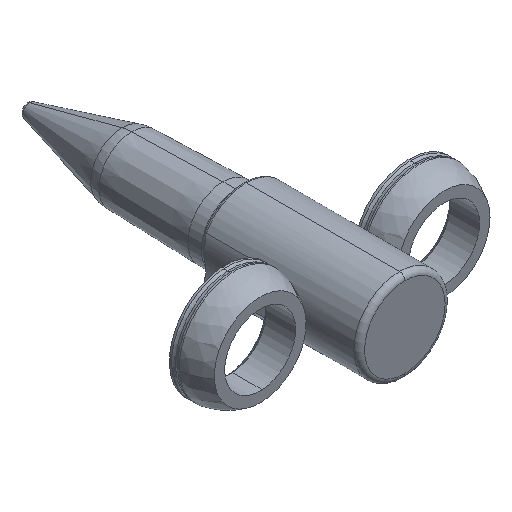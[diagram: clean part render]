
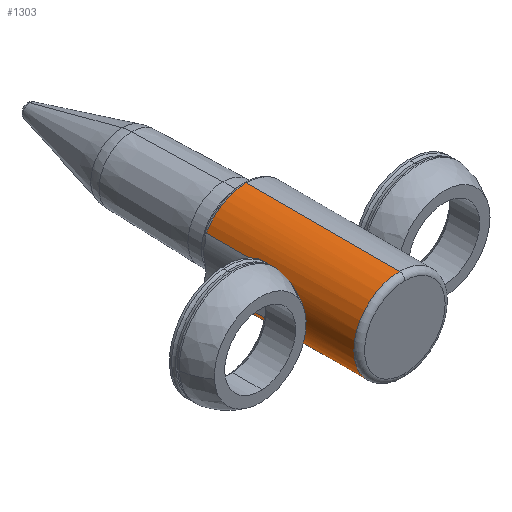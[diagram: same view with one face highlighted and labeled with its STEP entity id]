
A CAD part, isometric view. The second image highlights one B-rep face of the part: STEP entity #1303.
In plain terms, the highlighted cylindrical face has radius 6.5 mm (diameter 13 mm), a partial arc.
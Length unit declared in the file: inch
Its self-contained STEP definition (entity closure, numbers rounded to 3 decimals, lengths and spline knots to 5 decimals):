
#13 = AXIS2_PLACEMENT_3D ( 'NONE', #477, #1602, #367 ) ;
#16 = CARTESIAN_POINT ( 'NONE',  ( 0., -0.055, 0.25591 ) ) ;
#21 = CARTESIAN_POINT ( 'NONE',  ( 0., -0.915, 0.25591 ) ) ;
#29 = EDGE_LOOP ( 'NONE', ( #338, #1381, #1570, #507, #750, #148, #50, #226, #1020 ) ) ;
#50 = ORIENTED_EDGE ( 'NONE', *, *, #452, .T. ) ;
#64 = CARTESIAN_POINT ( 'NONE',  ( 0., -0.055, 0. ) ) ;
#112 = CARTESIAN_POINT ( 'NONE',  ( -0.2241, -0.055, -0.12356 ) ) ;
#127 = VERTEX_POINT ( 'NONE', #699 ) ;
#129 = CARTESIAN_POINT ( 'NONE',  ( -0.2241, -0.4652, -0.12356 ) ) ;
#131 = DIRECTION ( 'NONE',  ( 0., -1., 0. ) ) ;
#134 = CARTESIAN_POINT ( 'NONE',  ( -0.25591, -0.646, -0.00509 ) ) ;
#148 = ORIENTED_EDGE ( 'NONE', *, *, #740, .T. ) ;
#155 = DIRECTION ( 'NONE',  ( 0., -1., 0. ) ) ;
#163 = VERTEX_POINT ( 'NONE', #1068 ) ;
#168 = CARTESIAN_POINT ( 'NONE',  ( -0.2241, -0.4652, 0.12356 ) ) ;
#175 = CIRCLE ( 'NONE', #1150, 0.25591 ) ;
#176 = DIRECTION ( 'NONE',  ( 0., -1., 0. ) ) ;
#183 = CARTESIAN_POINT ( 'NONE',  ( 0., -0.945, -0.25591 ) ) ;
#196 = CARTESIAN_POINT ( 'NONE',  ( -0.22532, -0.50583, 0.12142 ) ) ;
#202 = CARTESIAN_POINT ( 'NONE',  ( -0.24557, -0.61396, 0.07231 ) ) ;
#210 = CARTESIAN_POINT ( 'NONE',  ( -0.25299, -0.63755, 0.03971 ) ) ;
#226 = ORIENTED_EDGE ( 'NONE', *, *, #309, .T. ) ;
#260 = CARTESIAN_POINT ( 'NONE',  ( -0.25591, -0.646, 0. ) ) ;
#270 = CARTESIAN_POINT ( 'NONE',  ( -0.2241, -0.273, 0.12356 ) ) ;
#309 = EDGE_CURVE ( 'NONE', #332, #857, #854, .T. ) ;
#324 = CARTESIAN_POINT ( 'NONE',  ( -0.25137, -0.63272, 0.04869 ) ) ;
#332 = VERTEX_POINT ( 'NONE', #1355 ) ;
#338 = ORIENTED_EDGE ( 'NONE', *, *, #1089, .F. ) ;
#362 = CARTESIAN_POINT ( 'NONE',  ( -0.22997, -0.54539, -0.11237 ) ) ;
#367 = DIRECTION ( 'NONE',  ( 0., 0., 1. ) ) ;
#382 = CARTESIAN_POINT ( 'NONE',  ( -0.24557, -0.61394, -0.07231 ) ) ;
#387 = FACE_OUTER_BOUND ( 'NONE', #29, .T. ) ;
#397 = DIRECTION ( 'NONE',  ( 0., 0., 1. ) ) ;
#424 = CARTESIAN_POINT ( 'NONE',  ( 0., -0.945, 0.25591 ) ) ;
#452 = EDGE_CURVE ( 'NONE', #127, #332, #970, .T. ) ;
#477 = CARTESIAN_POINT ( 'NONE',  ( 0., -0.945, 0. ) ) ;
#493 = VERTEX_POINT ( 'NONE', #16 ) ;
#502 = CARTESIAN_POINT ( 'NONE',  ( -0.25575, -0.64556, -0.01027 ) ) ;
#507 = ORIENTED_EDGE ( 'NONE', *, *, #1388, .T. ) ;
#534 = AXIS2_PLACEMENT_3D ( 'NONE', #64, #176, #927 ) ;
#535 = CARTESIAN_POINT ( 'NONE',  ( 0., -0.915, -0.25591 ) ) ;
#544 = CYLINDRICAL_SURFACE ( 'NONE', #13, 0.25591 ) ;
#553 = VERTEX_POINT ( 'NONE', #1512 ) ;
#571 = CARTESIAN_POINT ( 'NONE',  ( -0.23534, -0.57302, 0.10066 ) ) ;
#576 = CARTESIAN_POINT ( 'NONE',  ( 0., -0.915, 0. ) ) ;
#601 = EDGE_CURVE ( 'NONE', #1566, #163, #1118, .T. ) ;
#607 = CARTESIAN_POINT ( 'NONE',  ( -0.23929, -0.59045, -0.09087 ) ) ;
#610 = VERTEX_POINT ( 'NONE', #21 ) ;
#628 = CARTESIAN_POINT ( 'NONE',  ( -0.25357, -0.63923, -0.03486 ) ) ;
#657 = LINE ( 'NONE', #424, #1471 ) ;
#660 = VECTOR ( 'NONE', #155, 39.37008 ) ;
#676 = AXIS2_PLACEMENT_3D ( 'NONE', #878, #131, #397 ) ;
#680 = VECTOR ( 'NONE', #1065, 39.37008 ) ;
#699 = CARTESIAN_POINT ( 'NONE',  ( -0.25591, -0.646, 0. ) ) ;
#701 = CARTESIAN_POINT ( 'NONE',  ( -0.23925, -0.5903, 0.09096 ) ) ;
#707 = DIRECTION ( 'NONE',  ( 0., 1., 0. ) ) ;
#736 = CARTESIAN_POINT ( 'NONE',  ( -0.24141, -0.59879, -0.08518 ) ) ;
#740 = EDGE_CURVE ( 'NONE', #163, #127, #1499, .T. ) ;
#750 = ORIENTED_EDGE ( 'NONE', *, *, #601, .T. ) ;
#755 = CARTESIAN_POINT ( 'NONE',  ( -0.23335, -0.56428, -0.10557 ) ) ;
#757 = CIRCLE ( 'NONE', #534, 0.25591 ) ;
#818 = CARTESIAN_POINT ( 'NONE',  ( -0.23024, -0.54523, 0.11176 ) ) ;
#828 = DIRECTION ( 'NONE',  ( 0., 1., 0. ) ) ;
#854 = LINE ( 'NONE', #1097, #932 ) ;
#857 = VERTEX_POINT ( 'NONE', #112 ) ;
#865 = CARTESIAN_POINT ( 'NONE',  ( -0.24765, -0.6209, -0.065 ) ) ;
#878 = CARTESIAN_POINT ( 'NONE',  ( 0., -0.055, 0. ) ) ;
#927 = DIRECTION ( 'NONE',  ( 0., 0., 1. ) ) ;
#932 = VECTOR ( 'NONE', #1226, 39.37008 ) ;
#943 = CARTESIAN_POINT ( 'NONE',  ( -0.24136, -0.59862, 0.08532 ) ) ;
#947 = CARTESIAN_POINT ( 'NONE',  ( -0.23351, -0.56398, 0.10477 ) ) ;
#956 = DIRECTION ( 'NONE',  ( 0., 0., 1. ) ) ;
#961 = VERTEX_POINT ( 'NONE', #535 ) ;
#965 = CARTESIAN_POINT ( 'NONE',  ( -0.25287, -0.63717, -0.03957 ) ) ;
#970 = B_SPLINE_CURVE_WITH_KNOTS ( 'NONE', 3,
 ( #260, #134, #502, #1130, #975, #628, #965, #1492, #1108, #865, #382, #736, #607, #755, #362, #1260, #1386, #129 ),
 .UNSPECIFIED., .F., .F.,
 ( 4, 2, 2, 2, 2, 2, 2, 2, 4 ),
 ( 0.00618, 0.00656, 0.00695, 0.00733, 0.00772, 0.00849, 0.00926, 0.0108, 0.01234 ),
 .UNSPECIFIED. ) ;
#975 = CARTESIAN_POINT ( 'NONE',  ( -0.2547, -0.64256, -0.02525 ) ) ;
#1005 = CIRCLE ( 'NONE', #676, 0.25591 ) ;
#1020 = ORIENTED_EDGE ( 'NONE', *, *, #1056, .T. ) ;
#1038 = CARTESIAN_POINT ( 'NONE',  ( -0.2241, -0.4857, 0.12356 ) ) ;
#1056 = EDGE_CURVE ( 'NONE', #857, #553, #757, .T. ) ;
#1065 = DIRECTION ( 'NONE',  ( 0., 1., 0. ) ) ;
#1066 = CARTESIAN_POINT ( 'NONE',  ( -0.2547, -0.64256, 0.02525 ) ) ;
#1068 = CARTESIAN_POINT ( 'NONE',  ( -0.2241, -0.4652, 0.12356 ) ) ;
#1069 = CARTESIAN_POINT ( 'NONE',  ( -0.24764, -0.62085, 0.06507 ) ) ;
#1079 = CARTESIAN_POINT ( 'NONE',  ( -0.25515, -0.64386, 0.02022 ) ) ;
#1085 = CARTESIAN_POINT ( 'NONE',  ( -0.2288, -0.53543, 0.11465 ) ) ;
#1089 = EDGE_CURVE ( 'NONE', #961, #553, #1483, .T. ) ;
#1097 = CARTESIAN_POINT ( 'NONE',  ( -0.2241, -0.273, -0.12356 ) ) ;
#1108 = CARTESIAN_POINT ( 'NONE',  ( -0.25044, -0.62977, -0.05276 ) ) ;
#1118 = LINE ( 'NONE', #270, #660 ) ;
#1130 = CARTESIAN_POINT ( 'NONE',  ( -0.25515, -0.64383, -0.02034 ) ) ;
#1143 = EDGE_CURVE ( 'NONE', #610, #493, #657, .T. ) ;
#1150 = AXIS2_PLACEMENT_3D ( 'NONE', #576, #828, #956 ) ;
#1155 = CARTESIAN_POINT ( 'NONE',  ( -0.2241, -0.055, 0.12356 ) ) ;
#1160 = EDGE_CURVE ( 'NONE', #961, #610, #175, .T. ) ;
#1186 = CARTESIAN_POINT ( 'NONE',  ( -0.25591, -0.646, 0.00511 ) ) ;
#1204 = CARTESIAN_POINT ( 'NONE',  ( -0.25591, -0.646, 0. ) ) ;
#1226 = DIRECTION ( 'NONE',  ( 0., 1., 0. ) ) ;
#1260 = CARTESIAN_POINT ( 'NONE',  ( -0.22532, -0.50579, -0.12143 ) ) ;
#1303 = ADVANCED_FACE ( 'NONE', ( #387 ), #544, .T. ) ;
#1355 = CARTESIAN_POINT ( 'NONE',  ( -0.2241, -0.4652, -0.12356 ) ) ;
#1381 = ORIENTED_EDGE ( 'NONE', *, *, #1160, .T. ) ;
#1386 = CARTESIAN_POINT ( 'NONE',  ( -0.2241, -0.48565, -0.12356 ) ) ;
#1388 = EDGE_CURVE ( 'NONE', #493, #1566, #1005, .T. ) ;
#1450 = CARTESIAN_POINT ( 'NONE',  ( -0.25575, -0.64557, 0.01018 ) ) ;
#1471 = VECTOR ( 'NONE', #707, 39.37008 ) ;
#1483 = LINE ( 'NONE', #183, #680 ) ;
#1492 = CARTESIAN_POINT ( 'NONE',  ( -0.25131, -0.63244, -0.0485 ) ) ;
#1499 = B_SPLINE_CURVE_WITH_KNOTS ( 'NONE', 3,
 ( #168, #1038, #196, #1085, #818, #947, #571, #701, #943, #202, #1069, #324, #210, #1066, #1079, #1450, #1186, #1204 ),
 .UNSPECIFIED., .F., .F.,
 ( 4, 2, 2, 2, 2, 2, 2, 2, 4 ),
 ( 0., 0.00154, 0.00232, 0.00309, 0.00386, 0.00463, 0.00541, 0.00579, 0.00618 ),
 .UNSPECIFIED. ) ;
#1512 = CARTESIAN_POINT ( 'NONE',  ( 0., -0.055, -0.25591 ) ) ;
#1566 = VERTEX_POINT ( 'NONE', #1155 ) ;
#1570 = ORIENTED_EDGE ( 'NONE', *, *, #1143, .T. ) ;
#1602 = DIRECTION ( 'NONE',  ( 0., 1., 0. ) ) ;
